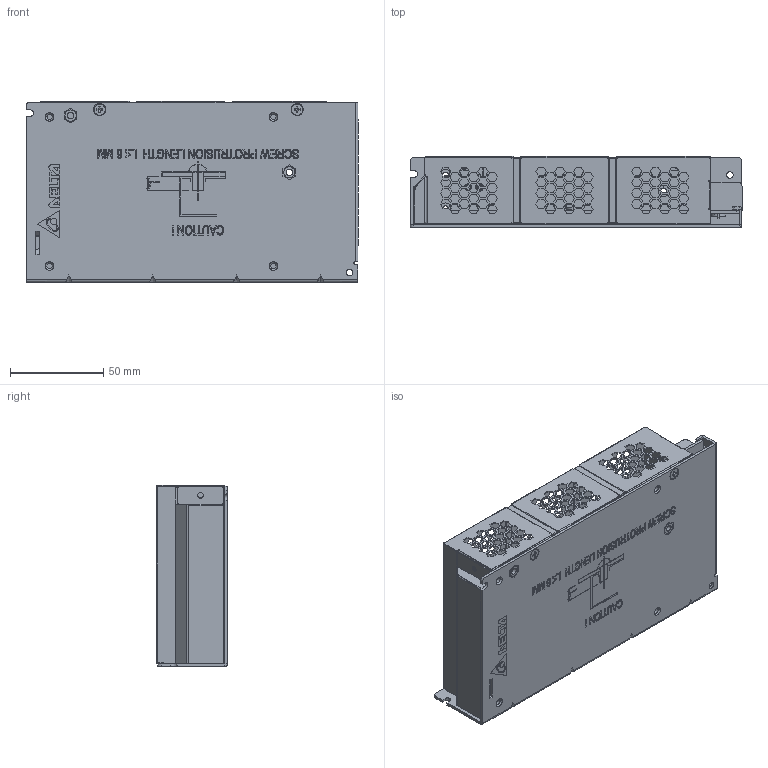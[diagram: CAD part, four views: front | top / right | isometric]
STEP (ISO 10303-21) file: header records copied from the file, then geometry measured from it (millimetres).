
FILE_DESCRIPTION((''),'2;1');
FILE_NAME('PMC-24V150W2AA_ASM','2012-04-20T',('Manop.Pr'),(''),'PRO/ENGINEER BY PARAMETRIC TECHNOLOGY CORPORATION, 2010180','PRO/ENGINEER BY PARAMETRIC TECHNOLOGY CORPORATION, 2010180','');
FILE_SCHEMA(('CONFIG_CONTROL_DESIGN','SHAPE_APPEARANCE_LAYERS_GROUPS'));
Products named in the file (16): 331606180203; 331606180203_A_STUD; 331606180203_ASM; 2958050701_PWB; 307049757W_A_BODY; 307049757W_A_SCREW; 307049757W_ASM; EE_VR550_0601013012; EE_LED350_2301151506; ASSY_PWB_ASM; 331606170101; 326203860203; 3268095800; 3100001200; 3100000400; PMC-24V150W2AA_ASM
Assembly tree (26 placements, depth 4):
  PMC-24V150W2AA_ASM
    331606180203_ASM
      331606180203
      331606180203_A_STUD  x2
    ASSY_PWB_ASM
      2958050701_PWB
      307049757W_ASM
        307049757W_A_BODY
        307049757W_A_SCREW  x7
      EE_VR550_0601013012
      EE_LED350_2301151506
    331606170101
    326203860203
    3268095800
    3100001200  x2
    3100000400  x4
Bounding box: 178 x 38.08 x 97.05 mm (x, y, z)
Volume: 83678.1 mm3; surface area: 143272.6 mm2
Topology: 23 solids, 23 shells, 6664 faces, 18252 edges, 11398 vertices
Faces by surface type: plane 4998, cylinder 610, bspline 468, extrusion 412, cone 146, torus 28, sphere 2
Entity records: 244685 total; most frequent: CARTESIAN_POINT 45438, ORIENTED_EDGE 32324, DIRECTION 26622, PRESENTATION_STYLE_ASSIGNMENT 16467, STYLED_ITEM 16176, CURVE_STYLE 16162, EDGE_CURVE 16162, VECTOR 14472
